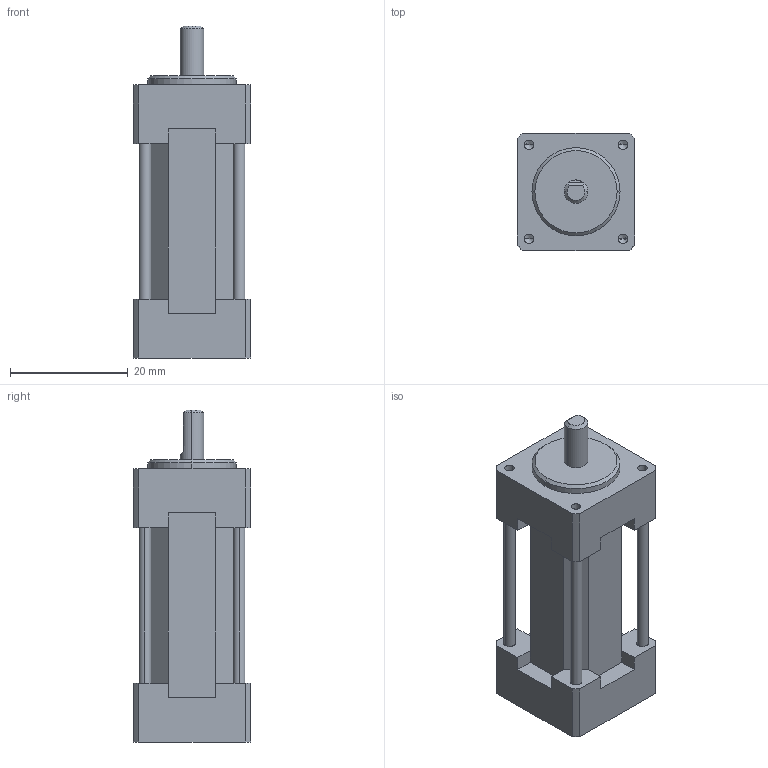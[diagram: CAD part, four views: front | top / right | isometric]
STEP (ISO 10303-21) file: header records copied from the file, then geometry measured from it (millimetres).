
FILE_DESCRIPTION (( 'STEP AP214' ), '1' );
FILE_NAME ('TS3682N2.STEP', '2016-09-09T06:30:32', ( 'hoho' ), ( '' ), 'SwSTEP 2.0', 'SolidWorks 2013', '' );
FILE_SCHEMA (( 'AUTOMOTIVE_DESIGN' ));
Length unit declared in the file: millimetre
Products named in the file (1): TS3682N2
Bounding box: 20 x 20 x 56.5 mm (x, y, z)
Volume: 12843.4 mm3; surface area: 5135.3 mm2
Topology: 1 solids, 1 shells, 96 faces, 246 edges, 150 vertices
Faces by surface type: plane 55, cylinder 28, cone 13
Entity records: 2956 total; most frequent: CARTESIAN_POINT 494, DIRECTION 491, ORIENTED_EDGE 476, EDGE_CURVE 238, VECTOR 173, LINE 173, AXIS2_PLACEMENT_3D 159, VERTEX_POINT 150
